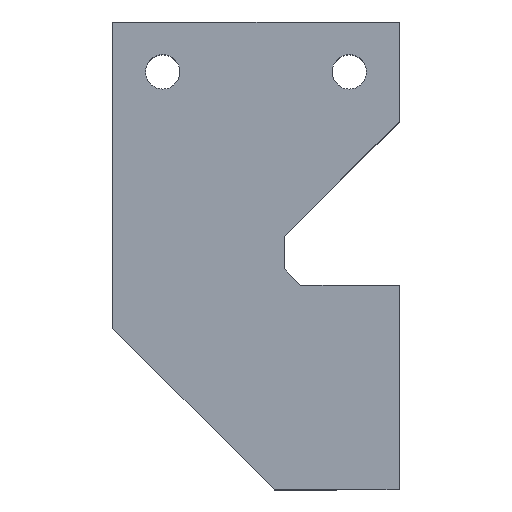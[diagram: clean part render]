
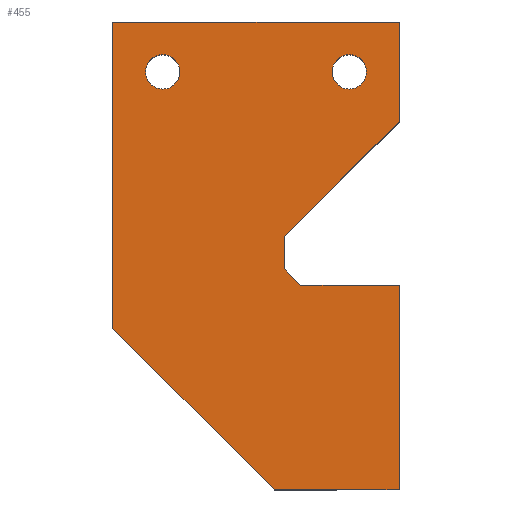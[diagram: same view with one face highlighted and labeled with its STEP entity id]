
A CAD part, top view. The second image highlights one B-rep face of the part: STEP entity #455.
In plain terms, the highlighted planar face has unit normal (0, 0, 1).
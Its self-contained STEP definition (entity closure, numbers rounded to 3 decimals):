
#21=FACE_BOUND('',#92,.T.);
#22=FACE_BOUND('',#93,.T.);
#39=PLANE('',#504);
#62=FACE_OUTER_BOUND('',#91,.T.);
#91=EDGE_LOOP('',(#415,#416,#417,#418,#419,#420,#421,#422,#423,#424));
#92=EDGE_LOOP('',(#425));
#93=EDGE_LOOP('',(#426));
#101=LINE('',#648,#150);
#115=LINE('',#688,#164);
#118=LINE('',#693,#167);
#130=LINE('',#726,#179);
#132=LINE('',#730,#181);
#134=LINE('',#734,#183);
#136=LINE('',#738,#185);
#138=LINE('',#742,#187);
#140=LINE('',#746,#189);
#142=LINE('',#749,#191);
#150=VECTOR('',#522,10.);
#164=VECTOR('',#560,10.);
#167=VECTOR('',#567,10.);
#179=VECTOR('',#599,10.);
#181=VECTOR('',#603,10.);
#183=VECTOR('',#607,10.);
#185=VECTOR('',#611,10.);
#187=VECTOR('',#615,10.);
#189=VECTOR('',#619,10.);
#191=VECTOR('',#623,10.);
#200=CIRCLE('',#489,2.1);
#201=CIRCLE('',#491,2.1);
#212=VERTEX_POINT('',#645);
#213=VERTEX_POINT('',#647);
#226=VERTEX_POINT('',#685);
#227=VERTEX_POINT('',#687);
#228=VERTEX_POINT('',#695);
#229=VERTEX_POINT('',#699);
#238=VERTEX_POINT('',#725);
#239=VERTEX_POINT('',#729);
#240=VERTEX_POINT('',#733);
#241=VERTEX_POINT('',#737);
#242=VERTEX_POINT('',#741);
#243=VERTEX_POINT('',#745);
#253=EDGE_CURVE('',#213,#212,#101,.T.);
#273=EDGE_CURVE('',#227,#226,#115,.T.);
#276=EDGE_CURVE('',#226,#213,#118,.T.);
#277=EDGE_CURVE('',#228,#228,#200,.T.);
#279=EDGE_CURVE('',#229,#229,#201,.T.);
#292=EDGE_CURVE('',#238,#227,#130,.T.);
#294=EDGE_CURVE('',#239,#238,#132,.T.);
#296=EDGE_CURVE('',#240,#239,#134,.T.);
#298=EDGE_CURVE('',#241,#240,#136,.T.);
#300=EDGE_CURVE('',#242,#241,#138,.T.);
#302=EDGE_CURVE('',#243,#242,#140,.T.);
#304=EDGE_CURVE('',#212,#243,#142,.T.);
#415=ORIENTED_EDGE('',*,*,#276,.T.);
#416=ORIENTED_EDGE('',*,*,#253,.T.);
#417=ORIENTED_EDGE('',*,*,#304,.T.);
#418=ORIENTED_EDGE('',*,*,#302,.T.);
#419=ORIENTED_EDGE('',*,*,#300,.T.);
#420=ORIENTED_EDGE('',*,*,#298,.T.);
#421=ORIENTED_EDGE('',*,*,#296,.T.);
#422=ORIENTED_EDGE('',*,*,#294,.T.);
#423=ORIENTED_EDGE('',*,*,#292,.T.);
#424=ORIENTED_EDGE('',*,*,#273,.T.);
#425=ORIENTED_EDGE('',*,*,#279,.T.);
#426=ORIENTED_EDGE('',*,*,#277,.T.);
#455=ADVANCED_FACE('',(#62,#21,#22),#39,.T.);
#489=AXIS2_PLACEMENT_3D('',#696,#570,#571);
#491=AXIS2_PLACEMENT_3D('',#700,#575,#576);
#504=AXIS2_PLACEMENT_3D('',#750,#624,#625);
#522=DIRECTION('',(0.,-1.,0.));
#560=DIRECTION('',(0.,1.,0.));
#567=DIRECTION('',(-1.,0.,0.));
#570=DIRECTION('center_axis',(0.,0.,-1.));
#571=DIRECTION('ref_axis',(1.,0.,0.));
#575=DIRECTION('center_axis',(0.,0.,-1.));
#576=DIRECTION('ref_axis',(1.,0.,0.));
#599=DIRECTION('',(0.707,0.707,0.));
#603=DIRECTION('',(0.,1.,0.));
#607=DIRECTION('',(-0.707,0.707,0.));
#611=DIRECTION('',(-1.,0.,0.));
#615=DIRECTION('',(0.,1.,0.));
#619=DIRECTION('',(1.,0.,0.));
#623=DIRECTION('',(0.707,-0.707,0.));
#624=DIRECTION('center_axis',(0.,0.,1.));
#625=DIRECTION('ref_axis',(1.,0.,0.));
#645=CARTESIAN_POINT('',(80.724,159.38,360.5));
#647=CARTESIAN_POINT('',(80.724,196.864,360.5));
#648=CARTESIAN_POINT('',(80.724,139.664,360.5));
#685=CARTESIAN_POINT('',(115.724,196.864,360.5));
#687=CARTESIAN_POINT('',(115.724,184.664,360.5));
#688=CARTESIAN_POINT('',(115.724,184.664,360.5));
#693=CARTESIAN_POINT('',(115.724,196.864,360.5));
#695=CARTESIAN_POINT('',(84.724,190.764,360.5));
#696=CARTESIAN_POINT('Origin',(86.824,190.764,360.5));
#699=CARTESIAN_POINT('',(107.524,190.764,360.5));
#700=CARTESIAN_POINT('Origin',(109.624,190.764,360.5));
#725=CARTESIAN_POINT('',(101.724,170.664,360.5));
#726=CARTESIAN_POINT('',(115.724,184.664,360.5));
#729=CARTESIAN_POINT('',(101.724,166.664,360.5));
#730=CARTESIAN_POINT('',(101.724,184.664,360.5));
#733=CARTESIAN_POINT('',(103.724,164.664,360.5));
#734=CARTESIAN_POINT('',(101.724,166.664,360.5));
#737=CARTESIAN_POINT('',(115.724,164.664,360.5));
#738=CARTESIAN_POINT('',(103.724,164.664,360.5));
#741=CARTESIAN_POINT('',(115.724,139.664,360.5));
#742=CARTESIAN_POINT('',(115.724,164.664,360.5));
#745=CARTESIAN_POINT('',(100.44,139.664,360.5));
#746=CARTESIAN_POINT('',(115.724,139.664,360.5));
#749=CARTESIAN_POINT('',(80.724,159.38,360.5));
#750=CARTESIAN_POINT('Origin',(98.224,168.264,360.5));
